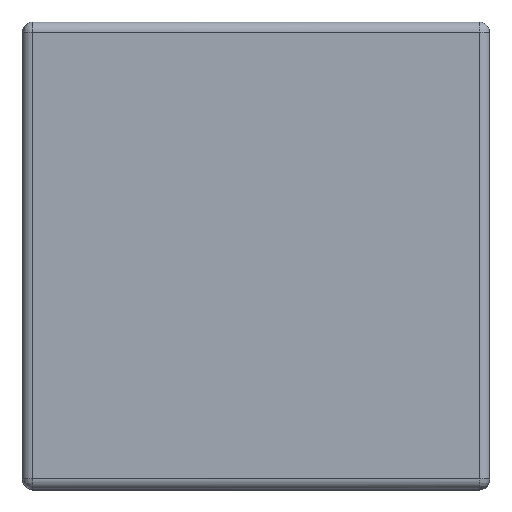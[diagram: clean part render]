
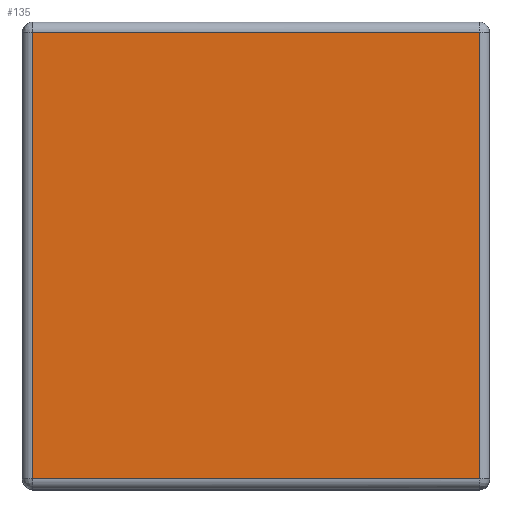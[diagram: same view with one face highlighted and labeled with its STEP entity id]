
A CAD part, top view. The second image highlights one B-rep face of the part: STEP entity #135.
In plain terms, the highlighted planar face has unit normal (0, 0, 1).
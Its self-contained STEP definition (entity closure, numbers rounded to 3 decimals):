
#135=ADVANCED_FACE('',(#265),#1785,.T.);
#265=FACE_OUTER_BOUND('',#395,.T.);
#395=EDGE_LOOP('',(#881,#882,#883,#884));
#881=ORIENTED_EDGE('',*,*,#1201,.T.);
#882=ORIENTED_EDGE('',*,*,#1202,.T.);
#883=ORIENTED_EDGE('',*,*,#1203,.T.);
#884=ORIENTED_EDGE('',*,*,#1204,.T.);
#1201=EDGE_CURVE('',#1649,#1650,#1497,.T.);
#1202=EDGE_CURVE('',#1650,#1651,#1498,.T.);
#1203=EDGE_CURVE('',#1651,#1652,#1499,.T.);
#1204=EDGE_CURVE('',#1652,#1649,#1500,.T.);
#1497=B_SPLINE_CURVE_WITH_KNOTS('',1,(#6695,#6696),.UNSPECIFIED.,.F.,.F.,
(2,2),(0.,430.),.UNSPECIFIED.);
#1498=B_SPLINE_CURVE_WITH_KNOTS('',1,(#6697,#6698),.UNSPECIFIED.,.F.,.F.,
(2,2),(0.,430.),.UNSPECIFIED.);
#1499=B_SPLINE_CURVE_WITH_KNOTS('',1,(#6699,#6700),.UNSPECIFIED.,.F.,.F.,
(2,2),(0.,430.),.UNSPECIFIED.);
#1500=B_SPLINE_CURVE_WITH_KNOTS('',1,(#6701,#6702),.UNSPECIFIED.,.F.,.F.,
(2,2),(0.,430.),.UNSPECIFIED.);
#1649=VERTEX_POINT('',#6655);
#1650=VERTEX_POINT('',#6656);
#1651=VERTEX_POINT('',#6657);
#1652=VERTEX_POINT('',#6658);
#1785=PLANE('',#1835);
#1835=AXIS2_PLACEMENT_3D('',#6061,#1868,$);
#1868=DIRECTION('',(0.,0.,1.));
#6061=CARTESIAN_POINT('',(-258.001,258.001,430.));
#6655=CARTESIAN_POINT('',(-215.,215.,430.));
#6656=CARTESIAN_POINT('',(-215.,-215.,430.));
#6657=CARTESIAN_POINT('',(215.,-215.,430.));
#6658=CARTESIAN_POINT('',(215.,215.,430.));
#6695=CARTESIAN_POINT('',(-215.,215.,430.));
#6696=CARTESIAN_POINT('',(-215.,-215.,430.));
#6697=CARTESIAN_POINT('',(-215.,-215.,430.));
#6698=CARTESIAN_POINT('',(215.,-215.,430.));
#6699=CARTESIAN_POINT('',(215.,-215.,430.));
#6700=CARTESIAN_POINT('',(215.,215.,430.));
#6701=CARTESIAN_POINT('',(215.,215.,430.));
#6702=CARTESIAN_POINT('',(-215.,215.,430.));
